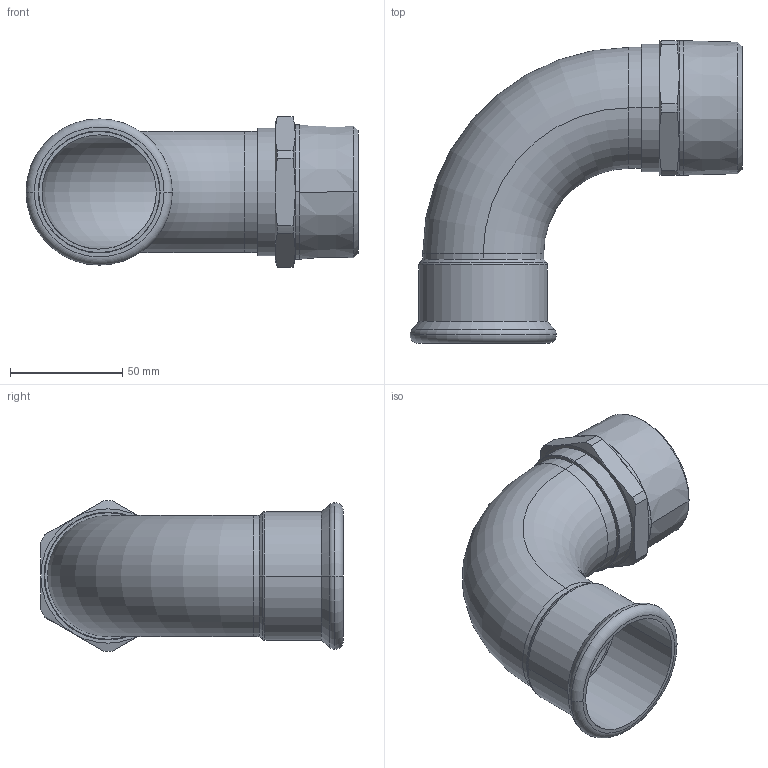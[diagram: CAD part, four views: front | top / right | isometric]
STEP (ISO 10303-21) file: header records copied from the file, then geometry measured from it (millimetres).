
FILE_DESCRIPTION(('CoCreate Modeling STEP Export'),'2;1');
FILE_NAME('C1430 54xR2.stp','2014-11-12T16:18:51',(''),(''),'CoCreate Modeling STEP processor for AP214 (Solid Model)','CoCreate Modeling 17.00A 17-Jun-2010 (C) Parametric Technology GmbH','');
FILE_SCHEMA(('AUTOMOTIVE_DESIGN { 1 0 10303 214 1 1 1 1 }'));
Length unit declared in the file: millimetre
Products named in the file (2): C1430_54xR2
Assembly tree (1 placements, depth 2):
  C1430_54xR2
    C1430_54xR2
Bounding box: 148.15 x 135 x 67.19 mm (x, y, z)
Volume: 75802.9 mm3; surface area: 68228.5 mm2
Topology: 1 solids, 1 shells, 61 faces, 144 edges, 90 vertices
Faces by surface type: cylinder 24, cone 14, plane 13, torus 10
Entity records: 2345 total; most frequent: CARTESIAN_POINT 1071, ORIENTED_EDGE 288, DIRECTION 218, EDGE_CURVE 144, VERTEX_POINT 90, AXIS2_PLACEMENT_3D 87, EDGE_LOOP 68, FACE_OUTER_BOUND 61
